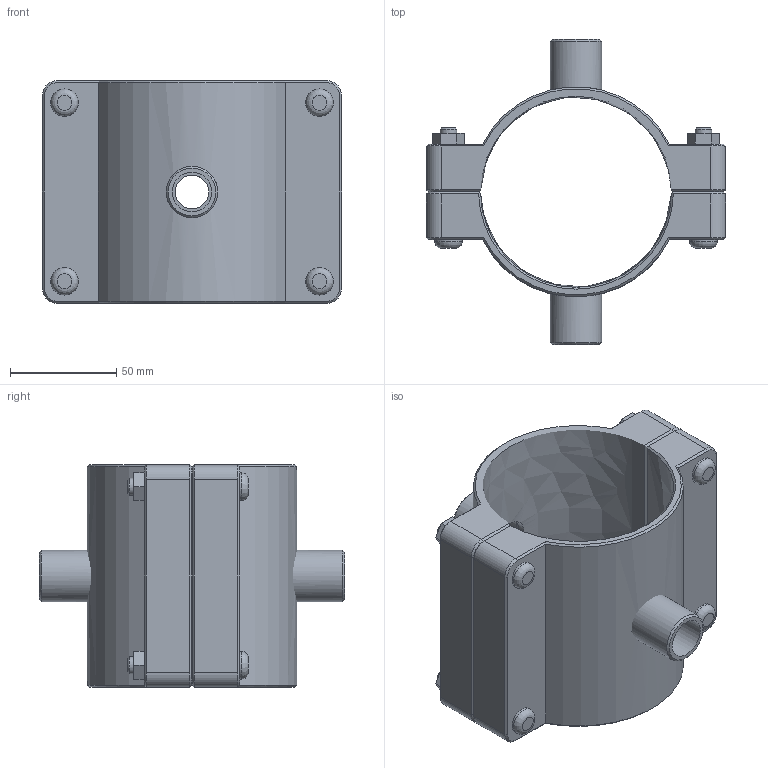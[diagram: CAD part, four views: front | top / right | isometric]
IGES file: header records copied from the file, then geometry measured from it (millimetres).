
Global section: file name: 161760090005_161860090005.ipt; native system: Autodesk Inventor 2015; preprocessor: unknown; author: KIM; date: 20170618.093723; units: millimetre
Bounding box: 141 x 144 x 105 mm (x, y, z)
Volume: 365292.6 mm3; surface area: 95975.8 mm2
Topology: 3 solids, 3 shells, 151 faces, 350 edges, 221 vertices
Faces by surface type: plane 84, cone 26, cylinder 24, revolution 17
Full cylindrical faces by diameter (mm): 8 x4, 13 x8, 24.22 x2
